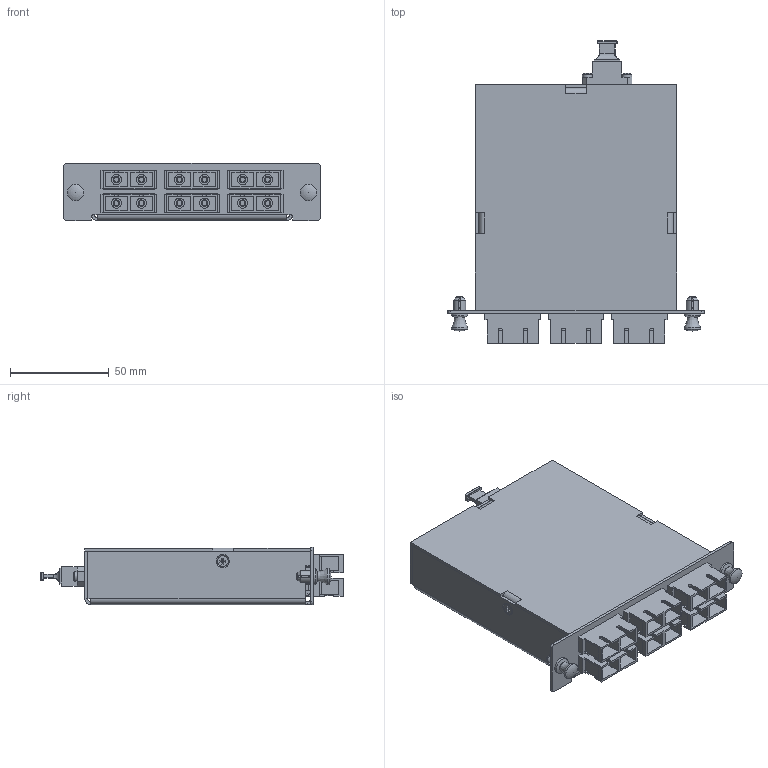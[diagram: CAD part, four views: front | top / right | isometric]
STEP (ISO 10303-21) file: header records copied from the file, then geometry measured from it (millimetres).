
FILE_DESCRIPTION(/* description */ ('STEP AP242','CAx-IF Rec.Pracs.---Representation and Presentation of Product Manufacturing Information (PMI)---4.0---2014-10-13','CAx-IF Rec.Pracs.---3D Tessellated Geometry---0.4---2014-09-14','2;1'),/* implementation_level */ '2;1');
FILE_NAME(/* name */ '650c9a2ddb7e025069273ce3',/* time_stamp */ '2023-09-21T19:31:58Z',/* author */ (''),/* organization */ (''),/* preprocessor_version */ 'ST-DEVELOPER v19.4',/* originating_system */ ' ',/* authorisation */ ' ');
FILE_SCHEMA (('AP242_MANAGED_MODEL_BASED_3D_ENGINEERING_MIM_LF { 1 0 10303 442 1 1 4 }'));
Length unit declared in the file: metre
Products named in the file (16): MTPC-1M-12XXSC-1; PEM SMPS-M3; User Library-Fiber Optic SC Adapters; PH Countersunk flat head screw M3x0.5 x 5; Plunger - Mini Snap Latch; PH Pan head screw M2.5x0.45 x 6; Grommet - Mini Snap Latch; Housing; Lid; FOA-990A_3D <1>; FOA-991A-MA1; DSTCP-MTP-FOA_update 2011; FOA-992B_WITH CHAMFERS
Assembly tree (31 placements, depth 3):
  MTPC-1M-12XXSC-1
    PEM SMPS-M3  x3
    User Library-Fiber Optic SC Adapters  x6
    PH Countersunk flat head screw M3x0.5 x 5  x3
    Plunger - Mini Snap Latch
    PH Pan head screw M2.5x0.45 x 6  x2
    User Library-Fiber Optic SC Adapters  x6
    Grommet - Mini Snap Latch
    Housing
    Grommet - Mini Snap Latch
    Lid
    FOA-990A_3D <1>
      FOA-991A-MA1  x2
      DSTCP-MTP-FOA_update 2011
      FOA-992B_WITH CHAMFERS
    Plunger - Mini Snap Latch
Bounding box: 130 x 153.48 x 29 mm (x, y, z)
Volume: 71099.7 mm3; surface area: 109034.7 mm2
Topology: 30 solids, 31 shells, 1907 faces, 5217 edges, 3421 vertices
Faces by surface type: plane 1557, cylinder 221, cone 77, bspline 37, torus 9, sphere 6
Full cylindrical faces by diameter (mm): 1.75 x2, 2.037 x2, 2.459 x3, 2.5 x2, 2.54 x12, 2.896 x2, 3 x3, 3.81 x6, 3.937 x2, 4.22 x3, 4.75 x3, 5 x2, 5.08 x24, 5.5 x3, 5.588 x2, 5.6 x3, 6 x2, 8.382 x4
Entity records: 25117 total; most frequent: CARTESIAN_POINT 5022, ORIENTED_EDGE 3988, DIRECTION 3893, EDGE_CURVE 1994, LINE 1547, VECTOR 1547, VERTEX_POINT 1330, AXIS2_PLACEMENT_3D 1173
